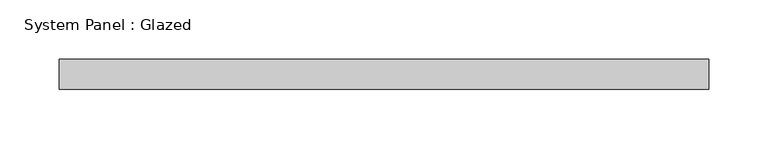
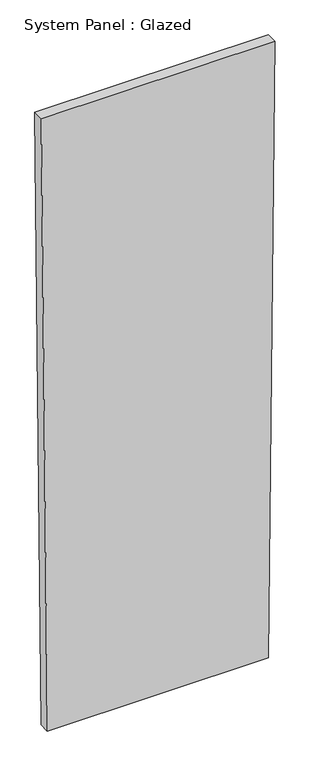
"""IFC4 building model written with IfcOpenShell, lengths in millimetres: plate geometry, System Panel : Glazed."""

from ifc_helpers import new_model, si_unit, frame, origin, place, context, project, spatial, polyline, outline, extrude, source, transform, mapped, element, save


def system_panel_glazed_69a4d19d(model_context):
    return source(origin(), model_context, "Body", "SweptSolid", [
        extrude(outline(polyline([(0.0, -259.7986329), (0.0, 259.7986329), (1523.9286562, 274.5448419), (1523.9286562, -274.5448419), (0.0, -259.7986329)])), frame((0.0, -44.45, 0.0), z_axis=(0.0, 1.0, 0.0), x_axis=(0.0, 0.0, 1.0)), (0.0, 0.0, 1.0), 25.4),
    ])


if __name__ == "__main__":
    model = new_model("IFC4")
    model_context = context("Model", 3, world=origin())
    ifc_project = project(units=[si_unit("LENGTHUNIT", "METRE", prefix="MILLI")], contexts=[model_context])
    site = spatial("IfcSite", under=ifc_project)
    building = spatial("IfcBuilding", under=site)
    placement = place(None, origin())
    system_panel_glazed_shape = system_panel_glazed_69a4d19d(model_context)
    element("IfcPlate", 1, ObjectType="System Panel : Glazed", at=placement, inside=building, context=model_context, shape_type="MappedRepresentation", body=[
        mapped(system_panel_glazed_shape, transform((0.0, 0.0, 0.0), x_axis=(1.0, 0.0, 0.0), y_axis=(0.0, 1.0, 0.0), z_axis=(0.0, 0.0, 1.0))),
    ])
    save(model, "model.ifc")
